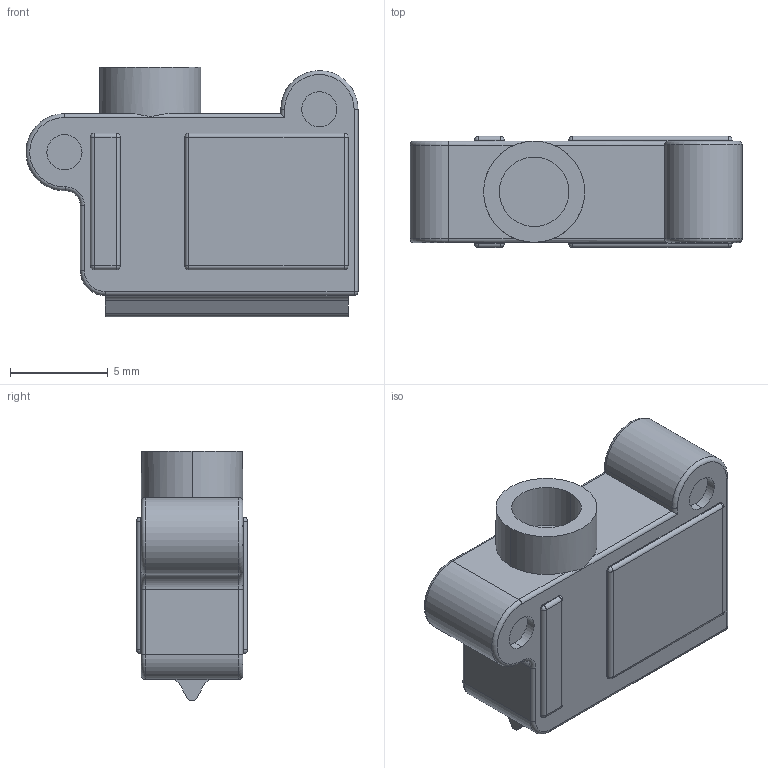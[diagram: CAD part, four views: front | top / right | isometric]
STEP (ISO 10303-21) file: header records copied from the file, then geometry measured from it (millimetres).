
FILE_DESCRIPTION((''),'2;1');
FILE_NAME('C-1-1627070-1','2017-08-08T',('workeradm'),('Tyco Electronics Ltd.'),'CREO PARAMETRIC BY PTC INC, 2016050','CREO PARAMETRIC BY PTC INC, 2016050','');
FILE_SCHEMA(('AUTOMOTIVE_DESIGN { 1 0 10303 214 1 1 1 1 }'));
Length unit declared in the file: millimetre
Products named in the file (1): C-1-1627070-1
Bounding box: 17.01 x 5.7 x 12.77 mm (x, y, z)
Volume: 840.1 mm3; surface area: 670.3 mm2
Topology: 1 solids, 1 shells, 126 faces, 275 edges, 160 vertices
Faces by surface type: cylinder 62, plane 38, sphere 18, torus 8
Entity records: 3667 total; most frequent: DIRECTION 655, CARTESIAN_POINT 651, ORIENTED_EDGE 550, EDGE_CURVE 275, AXIS2_PLACEMENT_3D 258, VERTEX_POINT 160, VECTOR 139, LINE 139
